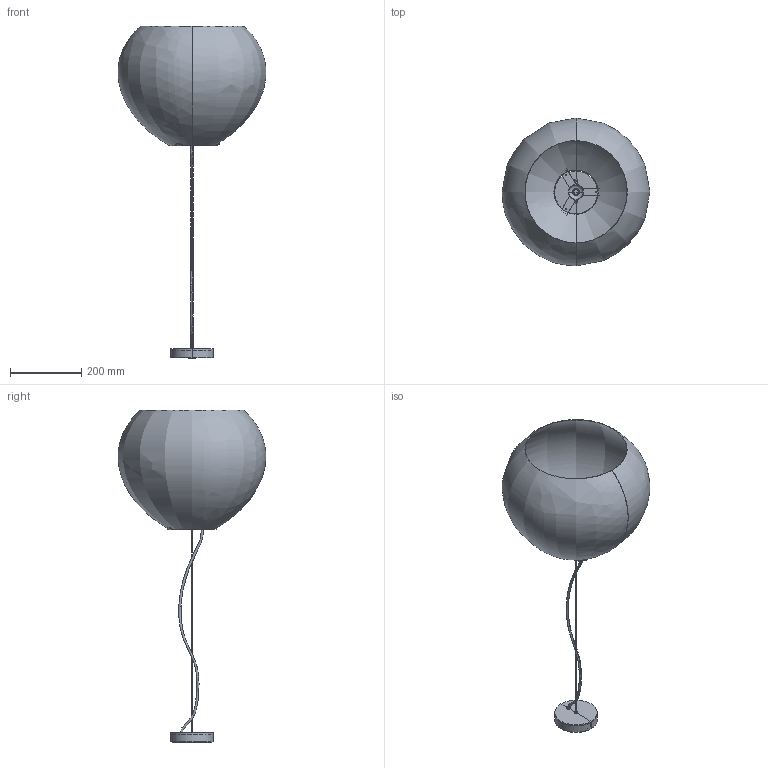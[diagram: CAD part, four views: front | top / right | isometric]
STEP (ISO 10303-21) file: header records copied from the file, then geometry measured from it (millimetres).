
FILE_DESCRIPTION(/* description */ (''),/* implementation_level */ '2;1');
FILE_NAME(/* name */ '20405.step',/* time_stamp */ '2024-03-28T11:14:24+01:00',/* author */ ('RenataManzini'),/* organization */ (''),/* preprocessor_version */ 'ST-DEVELOPER v20',/* originating_system */ 'AutoCAD Mechanical',/* authorisation */ '');
FILE_SCHEMA (('AUTOMOTIVE_DESIGN { 1 0 10303 214 3 1 1 }'));
Length unit declared in the file: millimetre
Products named in the file (4): Product; Pieza_20403_SL02 - Lamp Holder-696825-_3D_; Pieza_20403_SC - Lamp Holder-701445-_3D_; Pieza_20403_SL01 - Lamp Holder-704164-_3D_
Assembly tree (3 placements, depth 2):
  Product
    Pieza_20403_SL02 - Lamp Holder-696825-_3D_
    Pieza_20403_SC - Lamp Holder-701445-_3D_
    Pieza_20403_SL01 - Lamp Holder-704164-_3D_
Bounding box: 415.78 x 415.55 x 933.41 mm (x, y, z)
Volume: 588886.7 mm3; surface area: 957736.5 mm2
Topology: 7 solids, 7 shells, 128 faces, 293 edges, 178 vertices
Faces by surface type: plane 61, cylinder 47, bspline 10, cone 10
Entity records: 21135 total; most frequent: CARTESIAN_POINT 18153, DIRECTION 613, ORIENTED_EDGE 586, EDGE_CURVE 293, AXIS2_PLACEMENT_3D 225, VERTEX_POINT 178, LINE 163, VECTOR 163
